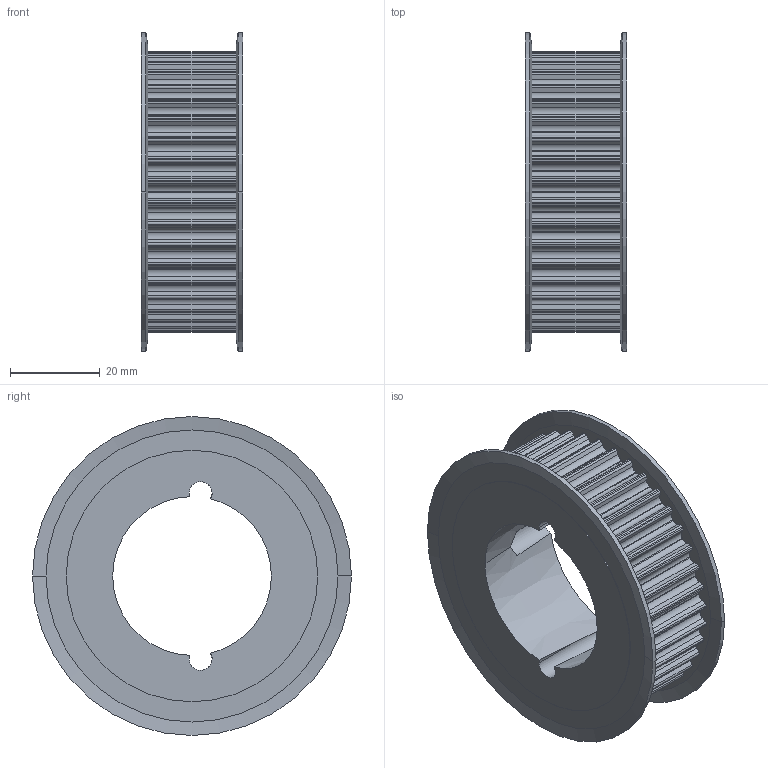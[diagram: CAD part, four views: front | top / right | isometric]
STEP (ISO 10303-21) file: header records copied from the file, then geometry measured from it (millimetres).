
FILE_DESCRIPTION( ( '' ), '1' );
FILE_NAME( 'C:/Users/Stangenbergd/Documents/CAD_Step/1/17277340.stp', '2021-10-19T10:06:13', ( '' ), ( '' ), ' ', ' ', ' ' );
FILE_SCHEMA( ( 'CONFIG_CONTROL_DESIGN' ) );
Length unit declared in the file: millimetre
Products named in the file (1): 1
Bounding box: 22.54 x 71 x 71 mm (x, y, z)
Volume: 40412.1 mm3; surface area: 16649.4 mm2
Topology: 1 solids, 1 shells, 356 faces, 1043 edges, 691 vertices
Faces by surface type: cylinder 216, plane 126, cone 14
Entity records: 12133 total; most frequent: CARTESIAN_POINT 2221, DIRECTION 2187, ORIENTED_EDGE 2082, EDGE_CURVE 1041, AXIS2_PLACEMENT_3D 801, VERTEX_POINT 691, LINE 585, VECTOR 585
